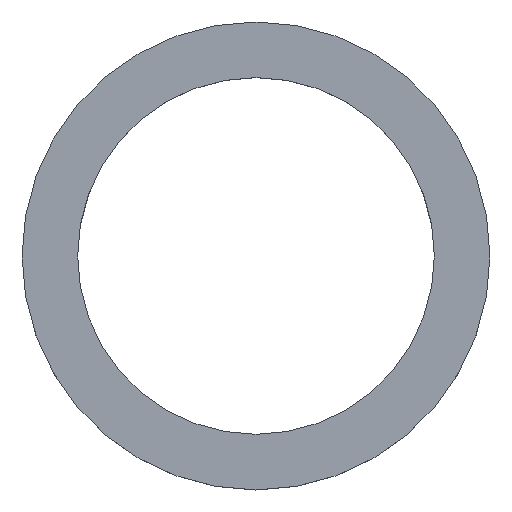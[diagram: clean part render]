
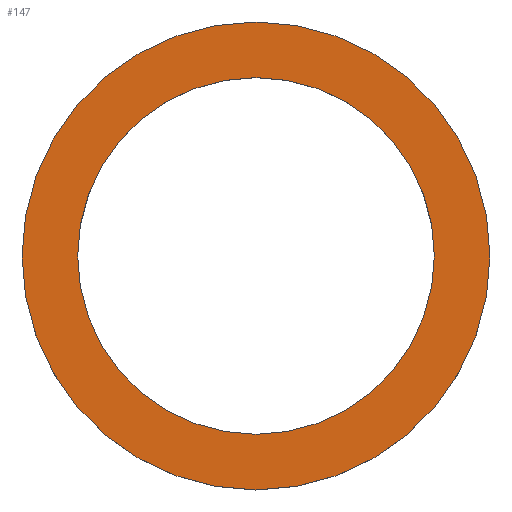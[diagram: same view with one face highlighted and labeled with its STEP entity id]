
A CAD part, top view. The second image highlights one B-rep face of the part: STEP entity #147.
In plain terms, the highlighted planar face has unit normal (0, 0, 1).
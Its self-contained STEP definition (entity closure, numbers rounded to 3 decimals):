
#84=CARTESIAN_POINT('',(8.1,0.,1.05));
#85=VERTEX_POINT('',#84);
#86=CARTESIAN_POINT('',(0.0,0.0,1.05));
#87=DIRECTION('',(0.0,0.0,-1.0));
#88=DIRECTION('',(-1.0,0.0,0.0));
#89=AXIS2_PLACEMENT_3D('',#86,#87,#88);
#90=CIRCLE('',#89,8.1);
#91=EDGE_CURVE('',#85,#85,#90,.T.);
#124=CARTESIAN_POINT('',(10.625,0.,1.05));
#125=VERTEX_POINT('',#124);
#126=CARTESIAN_POINT('',(0.0,0.0,1.05));
#127=DIRECTION('',(0.0,0.0,-1.0));
#128=DIRECTION('',(-1.0,0.0,0.0));
#129=AXIS2_PLACEMENT_3D('',#126,#127,#128);
#130=CIRCLE('',#129,10.625);
#131=EDGE_CURVE('',#125,#125,#130,.T.);
#136=CARTESIAN_POINT('',(0.0,0.0,1.05));
#137=DIRECTION('',(0.0,0.0,-1.0));
#138=DIRECTION('',(-1.0,0.0,0.0));
#139=AXIS2_PLACEMENT_3D('',#136,#137,#138);
#140=PLANE('',#139);
#141=ORIENTED_EDGE('',*,*,#131,.F.);
#142=EDGE_LOOP('',(#141));
#143=FACE_OUTER_BOUND('',#142,.T.);
#144=ORIENTED_EDGE('',*,*,#91,.T.);
#145=EDGE_LOOP('',(#144));
#146=FACE_BOUND('',#145,.T.);
#147=ADVANCED_FACE('',(#143,#146),#140,.F.);
